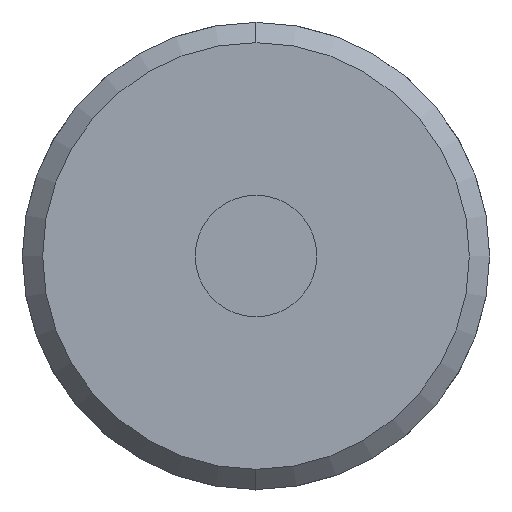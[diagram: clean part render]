
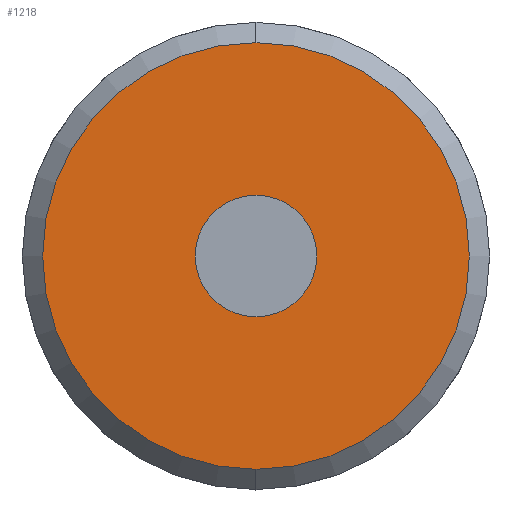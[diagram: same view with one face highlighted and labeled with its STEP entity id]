
A CAD part, left-side view. The second image highlights one B-rep face of the part: STEP entity #1218.
In plain terms, the highlighted planar face has unit normal (-1, 0, 0).
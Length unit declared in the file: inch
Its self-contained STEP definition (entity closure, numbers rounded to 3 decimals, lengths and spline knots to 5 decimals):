
#32 = ORIENTED_EDGE ( 'NONE', *, *, #708, .F. ) ;
#44 = CIRCLE ( 'NONE', #315, 0.658 ) ;
#182 = CIRCLE ( 'NONE', #309, 0.658 ) ;
#209 = FACE_BOUND ( 'NONE', #1067, .T. ) ;
#214 = CIRCLE ( 'NONE', #289, 0.1875 ) ;
#220 = CIRCLE ( 'NONE', #288, 0.1875 ) ;
#243 = FACE_OUTER_BOUND ( 'NONE', #1056, .T. ) ;
#288 = AXIS2_PLACEMENT_3D ( 'NONE', #841, #840, #839 ) ;
#289 = AXIS2_PLACEMENT_3D ( 'NONE', #809, #808, #845 ) ;
#309 = AXIS2_PLACEMENT_3D ( 'NONE', #567, #566, #565 ) ;
#315 = AXIS2_PLACEMENT_3D ( 'NONE', #613, #612, #610 ) ;
#464 = CARTESIAN_POINT ( 'NONE',  ( -3.8772, -0.62597, -0.1875 ) ) ;
#495 = CARTESIAN_POINT ( 'NONE',  ( -3.8772, -0.62597, 0.1875 ) ) ;
#533 = DIRECTION ( 'NONE',  ( 0., 0., 1. ) ) ;
#537 = DIRECTION ( 'NONE',  ( -1., 0., 0. ) ) ;
#538 = CARTESIAN_POINT ( 'NONE',  ( -3.8772, -1.15047, 0. ) ) ;
#547 = PLANE ( 'NONE',  #740 ) ;
#565 = DIRECTION ( 'NONE',  ( 0., 0., -1. ) ) ;
#566 = DIRECTION ( 'NONE',  ( 1., 0., 0. ) ) ;
#567 = CARTESIAN_POINT ( 'NONE',  ( -3.8772, -0.62597, 0. ) ) ;
#610 = DIRECTION ( 'NONE',  ( 0., 0., -1. ) ) ;
#612 = DIRECTION ( 'NONE',  ( 1., 0., 0. ) ) ;
#613 = CARTESIAN_POINT ( 'NONE',  ( -3.8772, -0.62597, 0. ) ) ;
#652 = EDGE_CURVE ( 'NONE', #995, #1002, #44, .T. ) ;
#665 = EDGE_CURVE ( 'NONE', #1002, #995, #182, .T. ) ;
#706 = EDGE_CURVE ( 'NONE', #1083, #1060, #214, .T. ) ;
#708 = EDGE_CURVE ( 'NONE', #1060, #1083, #220, .T. ) ;
#740 = AXIS2_PLACEMENT_3D ( 'NONE', #538, #537, #533 ) ;
#805 = CARTESIAN_POINT ( 'NONE',  ( -3.8772, -0.62597, -0.658 ) ) ;
#808 = DIRECTION ( 'NONE',  ( -1., 0., 0. ) ) ;
#809 = CARTESIAN_POINT ( 'NONE',  ( -3.8772, -0.62597, 0. ) ) ;
#839 = DIRECTION ( 'NONE',  ( 0., 0., 1. ) ) ;
#840 = DIRECTION ( 'NONE',  ( -1., 0., 0. ) ) ;
#841 = CARTESIAN_POINT ( 'NONE',  ( -3.8772, -0.62597, 0. ) ) ;
#845 = DIRECTION ( 'NONE',  ( 0., 0., 1. ) ) ;
#851 = CARTESIAN_POINT ( 'NONE',  ( -3.8772, -0.62597, 0.658 ) ) ;
#976 = ORIENTED_EDGE ( 'NONE', *, *, #665, .F. ) ;
#988 = ORIENTED_EDGE ( 'NONE', *, *, #652, .F. ) ;
#990 = ORIENTED_EDGE ( 'NONE', *, *, #706, .F. ) ;
#995 = VERTEX_POINT ( 'NONE', #805 ) ;
#1002 = VERTEX_POINT ( 'NONE', #851 ) ;
#1056 = EDGE_LOOP ( 'NONE', ( #988, #976 ) ) ;
#1060 = VERTEX_POINT ( 'NONE', #464 ) ;
#1067 = EDGE_LOOP ( 'NONE', ( #990, #32 ) ) ;
#1083 = VERTEX_POINT ( 'NONE', #495 ) ;
#1218 = ADVANCED_FACE ( 'NONE', ( #243, #209 ), #547, .T. ) ;
